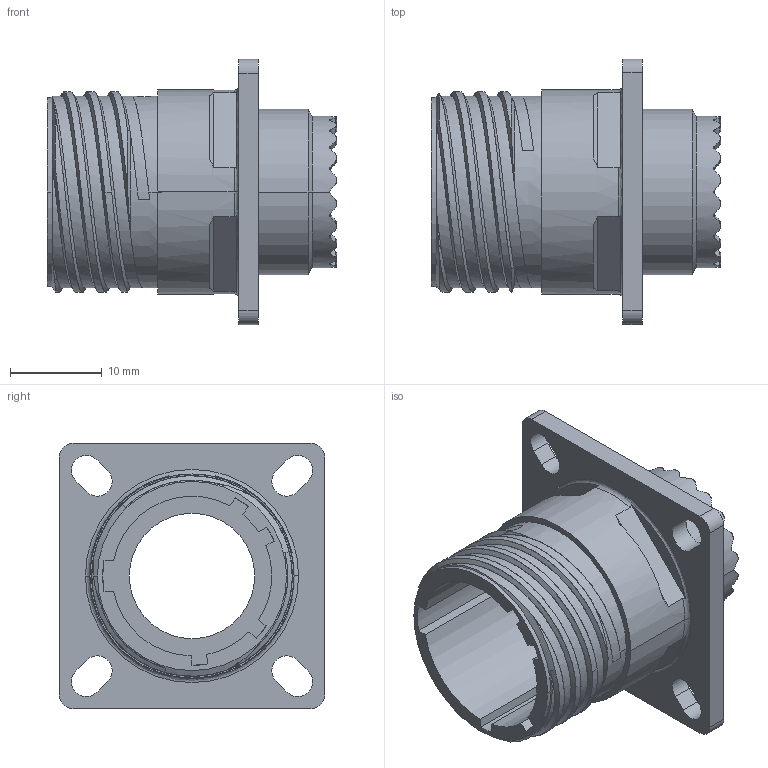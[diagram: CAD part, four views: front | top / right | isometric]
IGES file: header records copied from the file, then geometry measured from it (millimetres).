
Start section:  PTC IGES file: tv00_13_recp-shell.igs
Global section: file name: tv00_13_recp-shell.igs; native system: Creo Parametric by PTC Inc.; preprocessor: 2016260; author: t-nakamura; organization: Unknown; date: 20170622.211025; units: millimetre
Bounding box: 31.5 x 28.9 x 28.9 mm (x, y, z)
Surface area: 5515.4 mm2 (no closed solid volume)
Topology: 0 solids, 0 shells, 226 faces, 1306 edges, 1306 vertices
Faces by surface type: bspline 118, revolution 108
